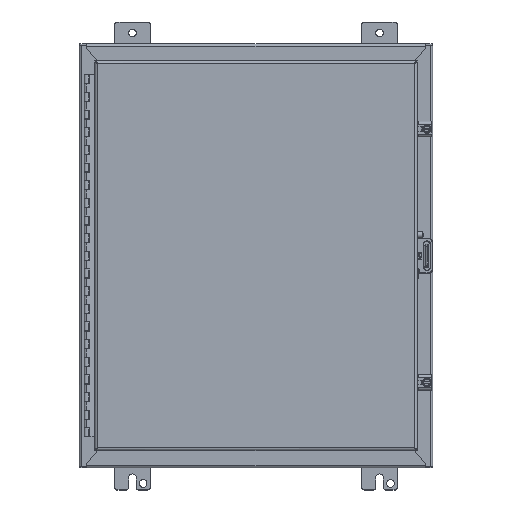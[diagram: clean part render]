
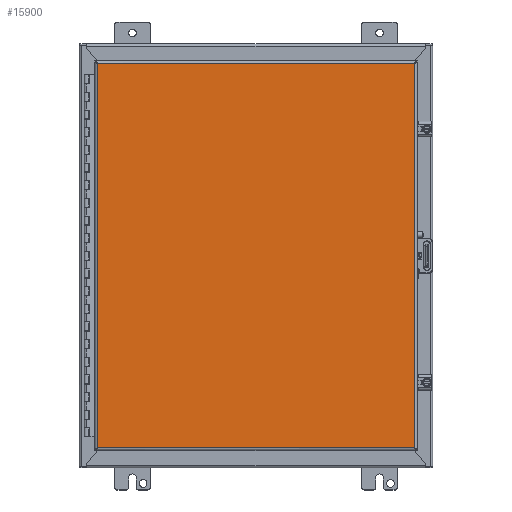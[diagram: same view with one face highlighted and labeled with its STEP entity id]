
A CAD part, top view. The second image highlights one B-rep face of the part: STEP entity #15900.
In plain terms, the highlighted planar face has unit normal (0, 0, 1) as drawn and (0, 1, 0) by its records, which use the part's own axes.
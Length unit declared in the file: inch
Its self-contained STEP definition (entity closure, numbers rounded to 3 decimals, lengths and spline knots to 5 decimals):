
#14407=DIRECTION('',(0.,0.,1.));
#14408=VECTOR('',#14407,17.96);
#14409=CARTESIAN_POINT('',(-10.88638,0.,0.145));
#14410=LINE('',#14409,#14408);
#14461=DIRECTION('',(0.,0.,1.));
#14462=VECTOR('',#14461,17.96);
#14463=CARTESIAN_POINT('',(10.88638,0.,0.145));
#14464=LINE('',#14463,#14462);
#14571=DIRECTION('',(-1.,0.,0.));
#14572=VECTOR('',#14571,21.77275);
#14573=CARTESIAN_POINT('',(10.88638,0.,0.145));
#14574=LINE('',#14573,#14572);
#15079=DIRECTION('',(-1.,0.,0.));
#15080=VECTOR('',#15079,21.77275);
#15081=CARTESIAN_POINT('',(10.88638,0.,18.105));
#15082=LINE('',#15081,#15080);
#15307=CARTESIAN_POINT('',(10.88638,0.,0.145));
#15308=CARTESIAN_POINT('',(-10.88638,0.,0.145));
#15309=VERTEX_POINT('',#15307);
#15310=VERTEX_POINT('',#15308);
#15311=CARTESIAN_POINT('',(10.88638,0.,18.105));
#15312=CARTESIAN_POINT('',(-10.88638,0.,18.105));
#15313=VERTEX_POINT('',#15311);
#15314=VERTEX_POINT('',#15312);
#15886=CARTESIAN_POINT('',(11.03138,0.,0.));
#15887=DIRECTION('',(0.,1.,0.));
#15888=DIRECTION('',(-1.,0.,0.));
#15889=AXIS2_PLACEMENT_3D('',#15886,#15887,#15888);
#15890=PLANE('',#15889);
#15892=ORIENTED_EDGE('',*,*,#15891,.T.);
#15894=ORIENTED_EDGE('',*,*,#15893,.T.);
#15895=ORIENTED_EDGE('',*,*,#15876,.F.);
#15897=ORIENTED_EDGE('',*,*,#15896,.F.);
#15898=EDGE_LOOP('',(#15892,#15894,#15895,#15897));
#15899=FACE_OUTER_BOUND('',#15898,.F.);
#15876=EDGE_CURVE('',#15310,#15314,#14410,.T.);
#15891=EDGE_CURVE('',#15309,#15313,#14464,.T.);
#15893=EDGE_CURVE('',#15313,#15314,#15082,.T.);
#15896=EDGE_CURVE('',#15309,#15310,#14574,.T.);
#15900=ADVANCED_FACE('',(#15899),#15890,.T.);
